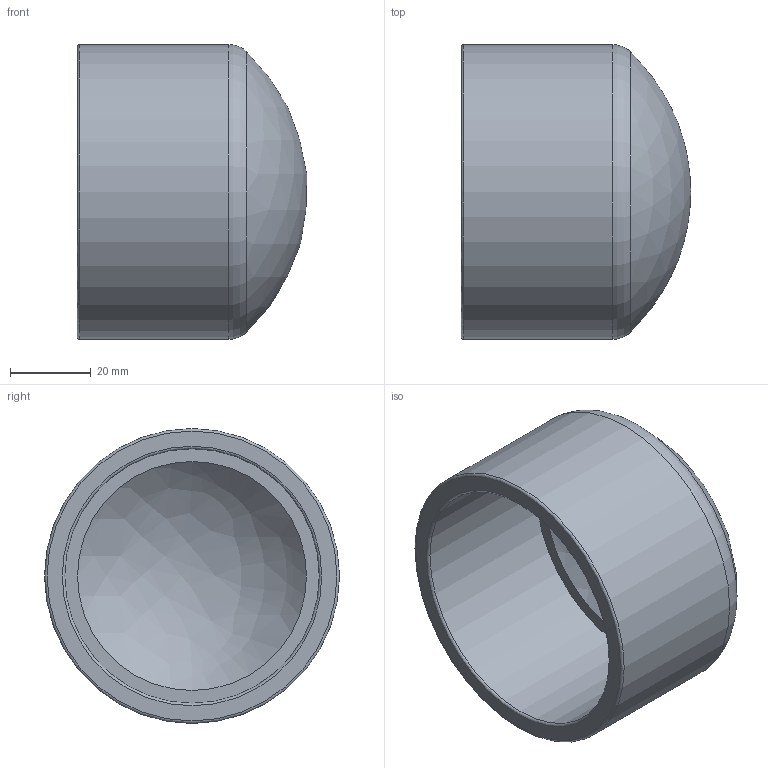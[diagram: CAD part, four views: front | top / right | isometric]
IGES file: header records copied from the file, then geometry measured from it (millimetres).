
Global section: file name: 050700063.ipt; native system: Autodesk Inventor 2015; preprocessor: unknown; author: KIM; date: 20171207.164807; units: millimetre
Bounding box: 56.8 x 73 x 73 mm (x, y, z)
Volume: 71147.8 mm3; surface area: 26224 mm2
Topology: 1 solids, 1 shells, 9 faces, 21 edges, 16 vertices
Faces by surface type: revolution 5, plane 2, cylinder 1, sphere 1
Full cylindrical faces by diameter (mm): 73 x1
